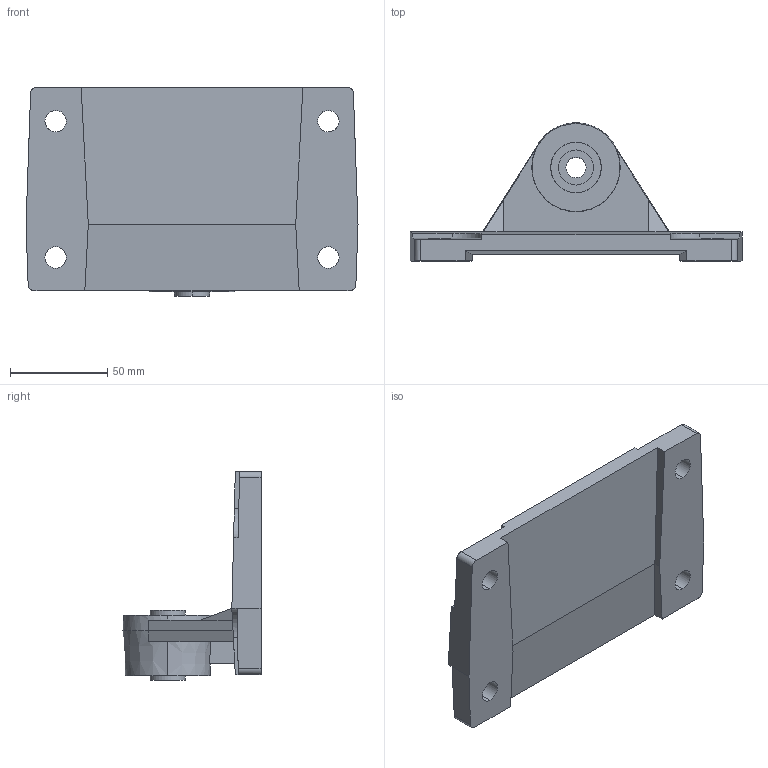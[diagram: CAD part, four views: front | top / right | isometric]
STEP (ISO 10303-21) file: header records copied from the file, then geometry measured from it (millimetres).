
FILE_DESCRIPTION((''),'2;1');
FILE_NAME('TABEN4_2','2015-06-07T',('Luca'),(''),'PRO/ENGINEER BY PARAMETRIC TECHNOLOGY CORPORATION, 2008230','PRO/ENGINEER BY PARAMETRIC TECHNOLOGY CORPORATION, 2008230','');
FILE_SCHEMA(('CONFIG_CONTROL_DESIGN'));
Length unit declared in the file: millimetre
Products named in the file (1): TABEN4_2
Bounding box: 170.5 x 70.91 x 107.3 mm (x, y, z)
Volume: 252177 mm3; surface area: 59444.6 mm2
Topology: 2 solids, 2 shells, 82 faces, 216 edges, 140 vertices
Faces by surface type: plane 50, cylinder 26, cone 6
Entity records: 2744 total; most frequent: CARTESIAN_POINT 651, ORIENTED_EDGE 432, DIRECTION 409, EDGE_CURVE 216, VECTOR 143, LINE 143, VERTEX_POINT 140, AXIS2_PLACEMENT_3D 133
